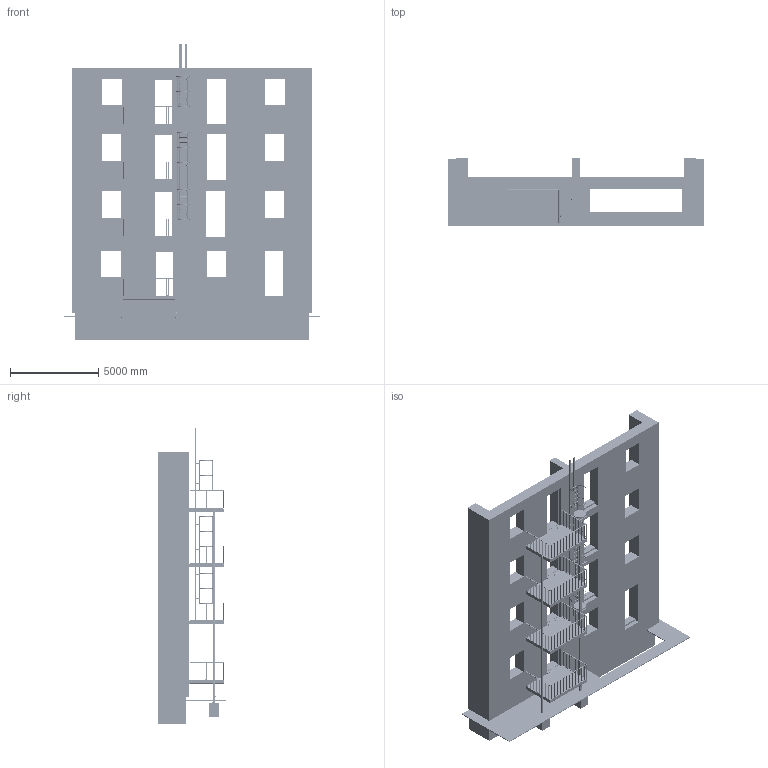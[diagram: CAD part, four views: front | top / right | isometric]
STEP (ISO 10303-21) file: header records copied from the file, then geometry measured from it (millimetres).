
FILE_DESCRIPTION(('TFLEX Exchange Step'),'2;1');
FILE_NAME('as_gray_1.stp', '2026-08-21T20:48:43+02:00',('User'),('Unknown organisation'),'TFLEX Exchange 2021.2','T-FLEX CAD','Unknown authorisation');
FILE_SCHEMA( ('AUTOMOTIVE_DESIGN { 1 0 10303 214 1 1 1 1 }') );
Length unit declared in the file: millimetre
Products named in the file (1511): kleinere Datei; Ohne Position - Blech t=1500 mm - C25/30 - 13077 mm - 501113.29 kg; Ohne Position - Blech t=1730 mm - C25/30 - 13537 mm - 655536.45 kg; Ohne Position - Blech t=1585 mm - C25/30 - 13247 mm - 131228.09 kg; Ohne Position - Blech t=50 mm - C25/30 - 14447 mm - 3316.57 kg; Ohne Position - RR 48.3x4 - S235JR - 4962 mm - 21.13 kg/St - 4x; Ohne Position - QRO30x3 - S235JR - 413 mm - 1.04 kg/St - 24x; Ohne Position - FL 40x5 - S235JR - 1961 mm - 3.06 kg/St - 7x; Ohne Position - Rd 16 - S235JR - 4942 mm - 7.60 kg/St - 6x; Ohne Position - Blech t=8 mm - S235JR - 50 mm - 1.31 kg/St - 12x; Ohne Positionsnummer; Ohne Position - Blech t=40 mm - S235JR - 763 mm - 12.40 kg/St - 2x; Ohne Position - G 200x5 (Typ III) - S355JR - 2940 mm - 70.60 kg/St - 16x; Ohne Position - RR 80x60x4 - S235JR - 1937 mm - 16.06 kg/St - 8x; Ohne Position - Sonderteil - S235JR - 126 mm - 1142x; Ohne Position - Blech t=8 mm - S235JR - 158 mm - 0.79 kg/St - 24x; Ohne Position - Blech t=35 mm - Mineralit - 2814 mm - 1393.21 kg/St - 4x; Ohne Position - FL 50x10 - S235JR - 2940 mm - 11.34 kg/St - 88x; Ohne Position - FL 40x8 - S235JR - 980 mm - 2.46 kg/St - 172x; Ohne Position - FL 60x8 - S235JR - 980 mm - 3.69 kg/St - 8x; Ohne Position - Blech t=5 mm - S235JR - 40 mm - 0.05 kg/St - 16x; Ohne Position - RO50x2.5 - A500 GR.C - 3080 mm - 8.79 kg/St - 4x; Ohne Position - QR 100x4 - S235JR - 3270 mm - 39.11 kg/St - 10x; Ohne Position - Blech t=3 mm - S235JR - 390 mm - 2.53 kg/St - 8x; Ohne Position - Sonderteil - 106 mm - 2x; Ohne Position - Blech t=800 mm - C25/30 - 600 mm - 720.00 kg/St - 2x; Ohne Position - Blech t=6 mm - Thermostop - 300 mm - 4.24 kg/St - 8x; Ohne Position - RR 60.3x8 - S235JR - 224 mm - 2.25 kg/St - 8x; Ohne Position - RR 82.5x5 - S235JR - 200 mm - 1.75 kg/St - 8x; Ohne Position - Blech t=10 mm - S235JR - 80 mm - 1.23 kg/St - 21x; Ohne Position - Blech t=15 mm - S235JR - 300 mm - 10.60 kg/St - 16x; Ohne Position - Blech t=30 mm - S235JR - 1040 mm - 4.99 kg/St - 4x; Ohne Position - L 150x100x10 - Alu - 60 mm - 1.06 kg/St - 8x; Ohne Position - U120 - S235JR - 1640 mm - 21.94 kg/St - 9x; Ohne Position - Blech t=80 mm - C25/30 - 1075 mm - 94.40 kg/St - 4x; Ohne Position - Sonderteil - A4 - 21 mm - 192x
Assembly tree (1510 placements, depth 2):
  kleinere Datei
    Ohne Position - Blech t=1500 mm - C25/30 - 13077 mm - 501113.29 kg
    Ohne Position - Blech t=1730 mm - C25/30 - 13537 mm - 655536.45 kg
    Ohne Position - Blech t=1585 mm - C25/30 - 13247 mm - 131228.09 kg
    Ohne Position - Blech t=50 mm - C25/30 - 14447 mm - 3316.57 kg
    Ohne Position - RR 48.3x4 - S235JR - 4962 mm - 21.13 kg/St - 4x
    Ohne Position - RR 48.3x4 - S235JR - 4962 mm - 21.13 kg/St - 4x
    Ohne Position - RR 48.3x4 - S235JR - 4962 mm - 21.13 kg/St - 4x
    Ohne Position - RR 48.3x4 - S235JR - 4962 mm - 21.13 kg/St - 4x
    Ohne Position - QRO30x3 - S235JR - 413 mm - 1.04 kg/St - 24x
    Ohne Position - QRO30x3 - S235JR - 413 mm - 1.04 kg/St - 24x
    Ohne Position - QRO30x3 - S235JR - 413 mm - 1.04 kg/St - 24x
    Ohne Position - QRO30x3 - S235JR - 413 mm - 1.04 kg/St - 24x
    Ohne Position - QRO30x3 - S235JR - 413 mm - 1.04 kg/St - 24x
    Ohne Position - QRO30x3 - S235JR - 413 mm - 1.04 kg/St - 24x
    Ohne Position - QRO30x3 - S235JR - 413 mm - 1.04 kg/St - 24x
    Ohne Position - QRO30x3 - S235JR - 413 mm - 1.04 kg/St - 24x
    Ohne Position - QRO30x3 - S235JR - 413 mm - 1.04 kg/St - 24x
    Ohne Position - QRO30x3 - S235JR - 413 mm - 1.04 kg/St - 24x
    Ohne Position - QRO30x3 - S235JR - 413 mm - 1.04 kg/St - 24x
    Ohne Position - QRO30x3 - S235JR - 413 mm - 1.04 kg/St - 24x
    Ohne Position - QRO30x3 - S235JR - 413 mm - 1.04 kg/St - 24x
    Ohne Position - QRO30x3 - S235JR - 413 mm - 1.04 kg/St - 24x
    Ohne Position - QRO30x3 - S235JR - 413 mm - 1.04 kg/St - 24x
    Ohne Position - QRO30x3 - S235JR - 413 mm - 1.04 kg/St - 24x
    Ohne Position - QRO30x3 - S235JR - 413 mm - 1.04 kg/St - 24x
    Ohne Position - QRO30x3 - S235JR - 413 mm - 1.04 kg/St - 24x
    Ohne Position - QRO30x3 - S235JR - 413 mm - 1.04 kg/St - 24x
    Ohne Position - QRO30x3 - S235JR - 413 mm - 1.04 kg/St - 24x
    Ohne Position - QRO30x3 - S235JR - 413 mm - 1.04 kg/St - 24x
    Ohne Position - QRO30x3 - S235JR - 413 mm - 1.04 kg/St - 24x
    Ohne Position - QRO30x3 - S235JR - 413 mm - 1.04 kg/St - 24x
    Ohne Position - QRO30x3 - S235JR - 413 mm - 1.04 kg/St - 24x
    Ohne Position - FL 40x5 - S235JR - 1961 mm - 3.06 kg/St - 7x
    Ohne Position - FL 40x5 - S235JR - 1961 mm - 3.06 kg/St - 7x
    Ohne Position - FL 40x5 - S235JR - 1961 mm - 3.06 kg/St - 7x
    Ohne Position - FL 40x5 - S235JR - 1961 mm - 3.06 kg/St - 7x
    Ohne Position - FL 40x5 - S235JR - 1961 mm - 3.06 kg/St - 7x
    Ohne Position - FL 40x5 - S235JR - 1961 mm - 3.06 kg/St - 7x
    Ohne Position - FL 40x5 - S235JR - 1961 mm - 3.06 kg/St - 7x
    Ohne Position - Rd 16 - S235JR - 4942 mm - 7.60 kg/St - 6x
    Ohne Position - Rd 16 - S235JR - 4942 mm - 7.60 kg/St - 6x
    Ohne Position - Rd 16 - S235JR - 4942 mm - 7.60 kg/St - 6x
    Ohne Position - Rd 16 - S235JR - 4942 mm - 7.60 kg/St - 6x
    Ohne Position - Rd 16 - S235JR - 4942 mm - 7.60 kg/St - 6x
    Ohne Position - Rd 16 - S235JR - 4942 mm - 7.60 kg/St - 6x
    Ohne Position - Blech t=8 mm - S235JR - 50 mm - 1.31 kg/St - 12x
    Ohne Position - Blech t=8 mm - S235JR - 50 mm - 1.31 kg/St - 12x
    Ohne Position - Blech t=8 mm - S235JR - 50 mm - 1.31 kg/St - 12x
    Ohne Position - Blech t=8 mm - S235JR - 50 mm - 1.31 kg/St - 12x
    Ohne Position - Blech t=8 mm - S235JR - 50 mm - 1.31 kg/St - 12x
    Ohne Position - Blech t=8 mm - S235JR - 50 mm - 1.31 kg/St - 12x
    Ohne Position - Blech t=8 mm - S235JR - 50 mm - 1.31 kg/St - 12x
    Ohne Position - Blech t=8 mm - S235JR - 50 mm - 1.31 kg/St - 12x
    Ohne Position - Blech t=8 mm - S235JR - 50 mm - 1.31 kg/St - 12x
    Ohne Position - Blech t=8 mm - S235JR - 50 mm - 1.31 kg/St - 12x
    Ohne Position - Blech t=8 mm - S235JR - 50 mm - 1.31 kg/St - 12x
    Ohne Position - Blech t=8 mm - S235JR - 50 mm - 1.31 kg/St - 12x
    Ohne Positionsnummer
    Ohne Positionsnummer
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Bounding box: 14447 x 3805 x 16765 mm (x, y, z)
Volume: 140595890081.2 mm3; surface area: 1190391717.3 mm2
Topology: 1510 solids, 1510 shells, 14554 faces, 35117 edges, 23984 vertices
Faces by surface type: plane 10172, cylinder 3873, cone 282, torus 136, sphere 84, bspline 7
Full cylindrical faces by diameter (mm): 5 x34, 5.502 x34, 6 x32, 6.002 x80, 6.4 x32, 8 x4, 8.002 x66, 10 x24, 10.002 x20, 10.5 x16, 12 x476, 12.002 x24, 13 x244, 14 x34, 14.002 x78, 16 x6, 16.002 x36, 17 x32, 18 x84, 20 x56, 20.002 x40, 24 x202, 25.002 x16, 30.002 x32, 30.65 x88, 36.4 x3, 37 x208, 38.002 x8, 40.3 x4, 44.3 x12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
Entity records: 1423678 total; most frequent: CARTESIAN_POINT 1069956, ORIENTED_EDGE 68412, DIRECTION 63026, EDGE_CURVE 34206, VERTEX_POINT 23984, VECTOR 21708, LINE 21708, AXIS2_PLACEMENT_3D 20659
